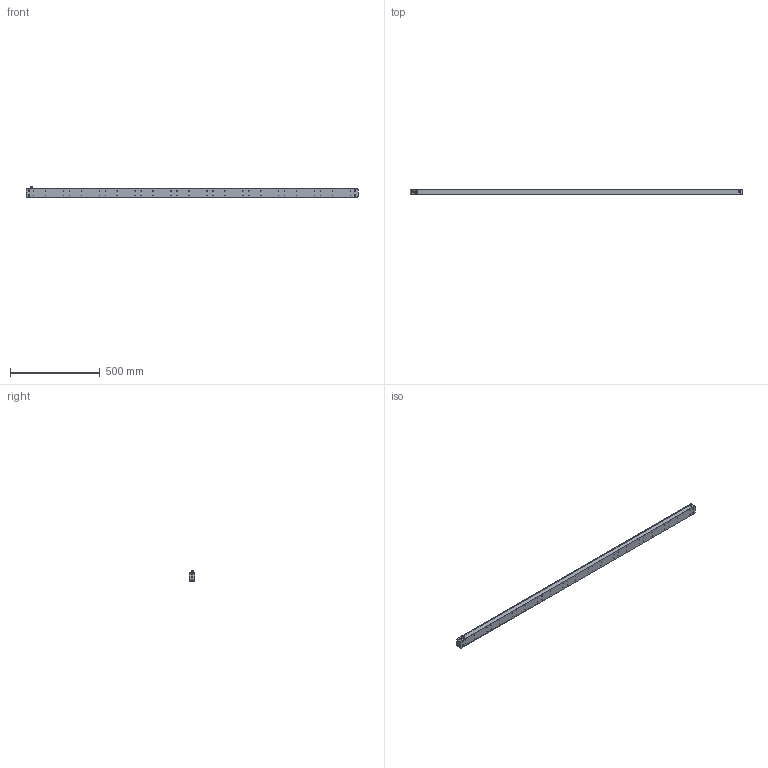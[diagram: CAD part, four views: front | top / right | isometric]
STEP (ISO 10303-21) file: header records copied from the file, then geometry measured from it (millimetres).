
FILE_DESCRIPTION (( 'STEP AP203' ), '1' );
FILE_NAME ('105807_01 (26-07-2016) (Part).STEP', '2016-07-26T11:41:50', ( '' ), ( '' ), 'SwSTEP 2.0', 'SolidWorks 2016', '' );
FILE_SCHEMA (( 'CONFIG_CONTROL_DESIGN' ));
Products named in the file (1): 105807_01 (26-07-2016) (Part)
Bounding box: 1850 x 30 x 63 mm (x, y, z)
Volume: 1021214.8 mm3; surface area: 581423.3 mm2
Topology: 1 solids, 18 shells, 2085 faces, 4952 edges, 2959 vertices
Faces by surface type: plane 1003, cone 451, cylinder 375, bspline 230, torus 26
Entity records: 66006 total; most frequent: CARTESIAN_POINT 19782, ORIENTED_EDGE 9680, DIRECTION 9634, EDGE_CURVE 4840, AXIS2_PLACEMENT_3D 3905, VERTEX_POINT 2959, EDGE_LOOP 2317, ADVANCED_FACE 2085
